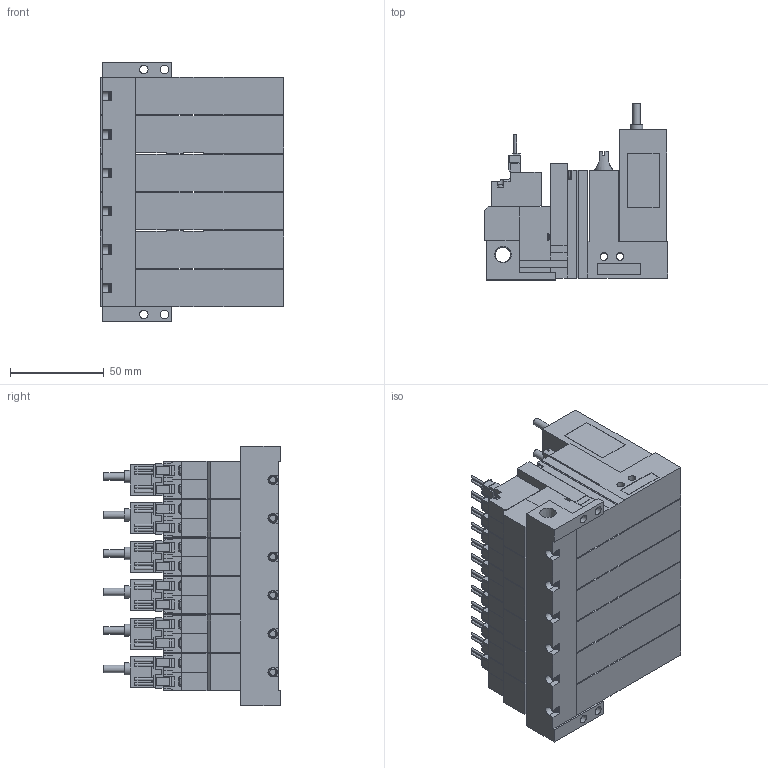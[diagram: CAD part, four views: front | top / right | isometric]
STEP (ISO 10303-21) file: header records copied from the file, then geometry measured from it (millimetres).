
FILE_DESCRIPTION(('STEP AP203'),'1');
FILE_NAME('VG_VGPLC5BLR606.stp','2025-02-19T02:24:33',(' '),(' '),'Spatial InterOp 3D',' ',' ');
FILE_SCHEMA(('CONFIG_CONTROL_DESIGN'));
Length unit declared in the file: millimetre
Products named in the file (5): BMC22M※※※※VG_VGPLC5BLR606; Solenoid valve B; Pressure sensor VGLC; Unit LC; Base MR60R
Assembly tree (19 placements, depth 2):
  BMC22M※※※※VG_VGPLC5BLR606
    Solenoid valve B  x6
    Pressure sensor VGLC  x6
    Unit LC  x6
    Base MR60R
Bounding box: 97.6 x 94 x 138.5 mm (x, y, z)
Volume: 670280.9 mm3; surface area: 171422.4 mm2
Topology: 19 solids, 19 shells, 2367 faces, 6341 edges, 4180 vertices
Faces by surface type: plane 2006, cylinder 287, cone 44, torus 30
Full cylindrical faces by diameter (mm): 1.4 x24, 2.5 x18, 3 x24, 3.5 x24, 3.6 x6, 4 x36, 4.134 x6, 4.5 x4, 5.2 x6, 6 x6, 6.5 x6, 6.6 x6, 8.279 x1
Entity records: 15188 total; most frequent: CARTESIAN_POINT 2932, DIRECTION 2420, ORIENTED_EDGE 2352, EDGE_CURVE 1176, LINE 942, VECTOR 942, VERTEX_POINT 825, AXIS2_PLACEMENT_3D 739
